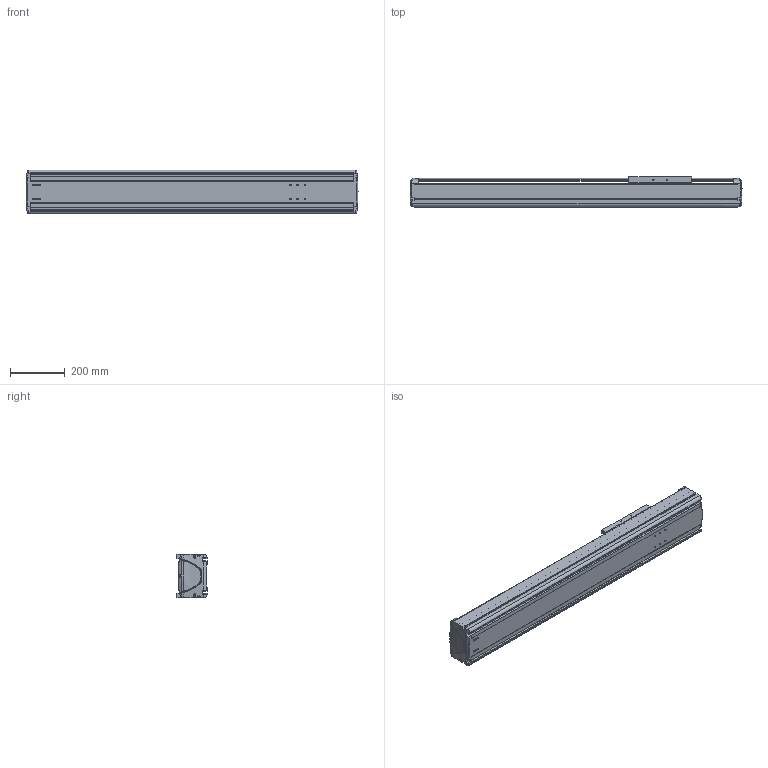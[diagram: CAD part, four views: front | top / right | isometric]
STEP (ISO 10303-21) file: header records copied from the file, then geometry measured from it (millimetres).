
FILE_DESCRIPTION((''),'2;1');
FILE_NAME('BE50G-ST-L_B-75_IGS_PRT','2017-06-18T',(' '),(''),'PRO/ENGINEER BY PARAMETRIC TECHNOLOGY CORPORATION, 2015030','PRO/ENGINEER BY PARAMETRIC TECHNOLOGY CORPORATION, 2015030','');
FILE_SCHEMA(('CONFIG_CONTROL_DESIGN'));
Length unit declared in the file: millimetre
Products named in the file (1): BE50G-ST-L_B-75_IGS_PRT
Bounding box: 1214.98 x 110 x 160 mm (x, y, z)
Volume: 5588513.6 mm3; surface area: 1885370.4 mm2
Topology: 2 solids, 85 shells, 1634 faces, 4351 edges, 2782 vertices
Faces by surface type: cylinder 708, plane 623, bspline 102, torus 87, cone 74, sphere 40
Entity records: 56255 total; most frequent: CARTESIAN_POINT 16140, ORIENTED_EDGE 8280, DIRECTION 8200, EDGE_CURVE 4306, AXIS2_PLACEMENT_3D 3056, VERTEX_POINT 2771, VECTOR 2088, LINE 2088
